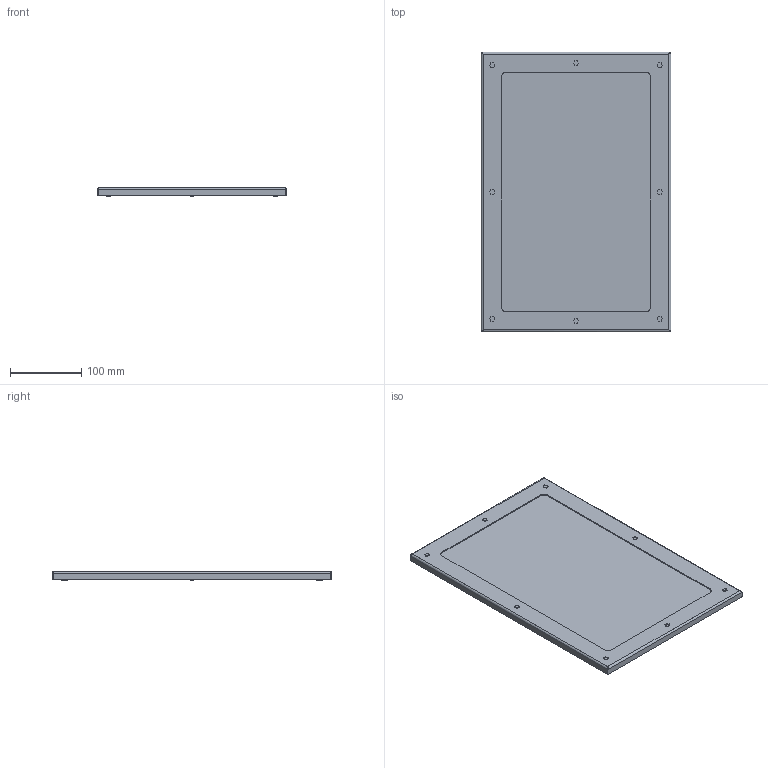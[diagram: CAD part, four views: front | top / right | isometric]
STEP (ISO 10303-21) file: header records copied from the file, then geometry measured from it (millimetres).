
FILE_DESCRIPTION((''),'2;1');
FILE_NAME('MODEL-390_ASM','2013-03-20T',('Joelb'),('SAGINAW CONTROL & ENGINEERING'),'PRO/ENGINEER BY PARAMETRIC TECHNOLOGY CORPORATION, 2012070','PRO/ENGINEER BY PARAMETRIC TECHNOLOGY CORPORATION, 2012070','');
FILE_SCHEMA(('AUTOMOTIVE_DESIGN { 1 0 10303 214 1 1 1 1 }'));
Length unit declared in the file: inch
Products named in the file (5): MODEL-390-FRAME; MODEL-390-LEXAN; 101019; 118415; MODEL-390_ASM
Assembly tree (12 placements, depth 2):
  MODEL-390_ASM
    MODEL-390-FRAME
    MODEL-390-LEXAN
    101019  x8
    118415  x2
Bounding box: 266.7 x 393.7 x 12.7 mm (x, y, z)
Volume: 632021.9 mm3; surface area: 306796 mm2
Topology: 10 solids, 10 shells, 224 faces, 516 edges, 328 vertices
Faces by surface type: plane 112, cylinder 88, cone 16, bspline 8
Entity records: 6504 total; most frequent: CARTESIAN_POINT 2462, DIRECTION 610, ORIENTED_EDGE 556, PRESENTATION_STYLE_ASSIGNMENT 289, STYLED_ITEM 281, CURVE_STYLE 278, EDGE_CURVE 278, AXIS2_PLACEMENT_3D 227
